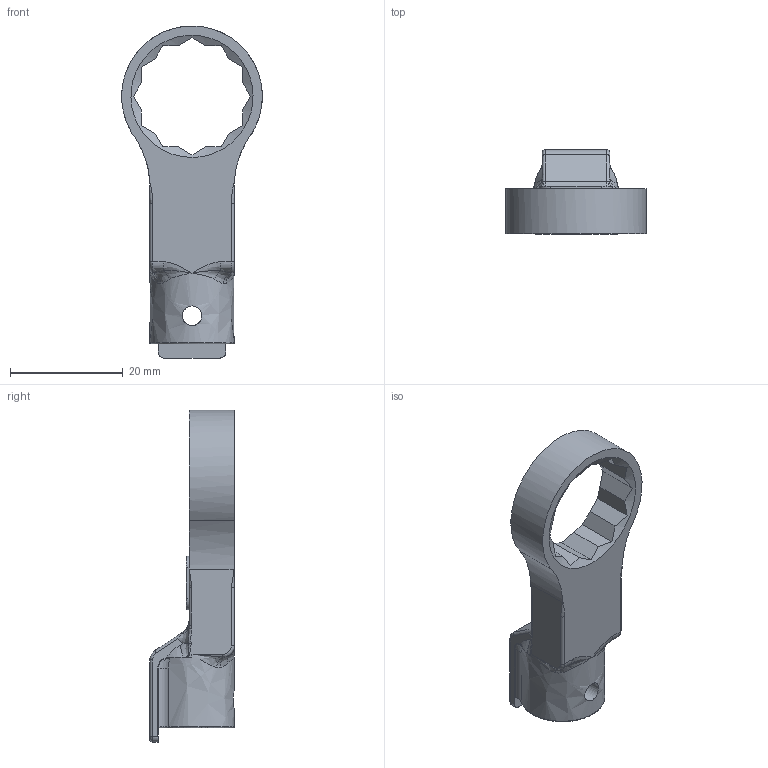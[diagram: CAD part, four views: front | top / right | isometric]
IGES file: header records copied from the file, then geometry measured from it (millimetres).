
Global section: file name: RH10DX18; native system: Autodesk Inventor 2016; preprocessor: unknown; author: Q600; date: 20151110.155230; units: millimetre
Bounding box: 24.97 x 15 x 59 mm (x, y, z)
Volume: 5524.9 mm3; surface area: 3658.4 mm2
Topology: 1 solids, 1 shells, 126 faces, 347 edges, 213 vertices
Faces by surface type: bspline 126
